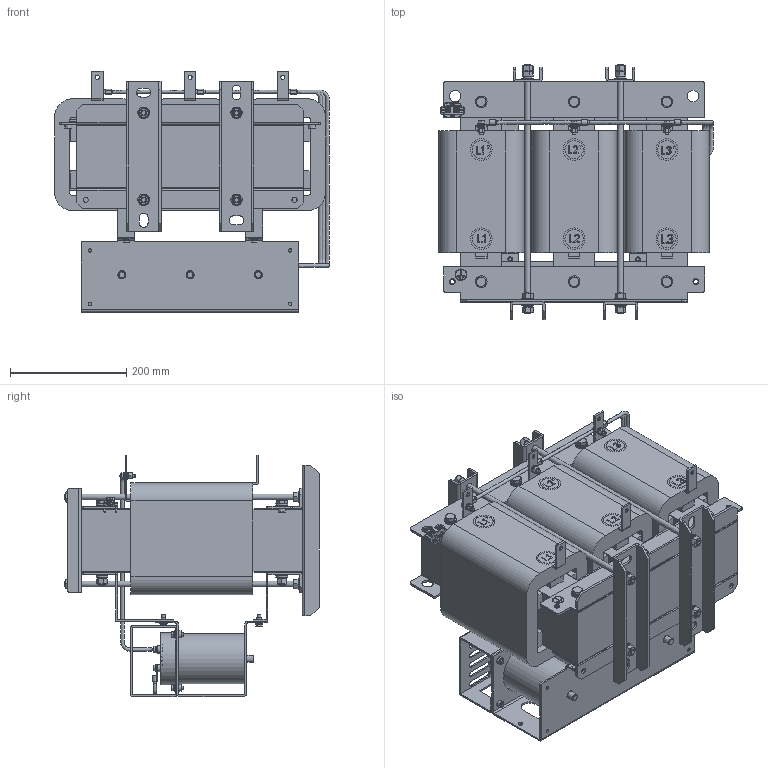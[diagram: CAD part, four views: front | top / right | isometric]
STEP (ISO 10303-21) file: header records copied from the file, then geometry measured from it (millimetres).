
FILE_DESCRIPTION(('STEP AP203'), '1');
FILE_NAME('蔓躅漤铋 耔眢耥 翳朦蝠 _ ISINOF-90_115-6', '', ('UNSPECIFIED'), ('UNSPECIFIED'), 'C3D Converter', 'C3D Toolkit', '');
FILE_SCHEMA(('CONFIG_CONTROL_DESIGN'));
Length unit declared in the file: millimetre
Products named in the file (40): ISINOF-90/115-6; LРНЦ吭X2\04560415\X0\; LРНЦ吭X2\04560415\X0\1; RNB14-6S; 吒X2\0425\X0\86-145; UРН琵X2\042704050415\X0\ 60x30x4; UРНС№Мх 50x25x4; 琵X2\04370418042D0458042C\X0\ ; ёЗЧУ; ї琵X2\041E\X0\做зЧУKV223-2P; А降еМх70-380-1; ДЪДёЕЕ25x3; ЖЅ豹X2\043504560415\X0\豹X2\0435\X0\12x30x210; ИэПаМъРѕ390-380-108; ЙПјРјю450-62-4ЈЁ70-160; НвДёЕЕ25x3; ПЯИ¦115AS; ПВјРјю390-62-4ЈЁ70-160; plain washers--product grade c gb_GB_FASTENER_WASHER_SMWC 10; spring lock washers--normal type gb_GB_FASTENER_WASHER_SW 10; hexagon nuts grade c gb_GB_FASTENER_NUT_SNC1 M10-N; M10X430; БщЅЗВЭЛЁM10; plain washers--product grade c gb_GB_FASTENER_WASHER_SMWC 6; hexagon head bolts-full thread gb_GB_FASTENER_BOLT_STBAB A M6X16-N; spring lock washers--normal type gb_GB_FASTENER_WASHER_SW 6; hexagon nuts grade c gb_GB_FASTENER_NUT_SNC1 M6-N; hexagon head bolts-full thread gb_GB_FASTENER_BOLT_STBAB A M6X20-N; Cable_1-ИэПаХэПТІЁВЛІЁЖч SKS-SF-0155-6AЈЇ05; 琵X2\043704100412\X0\^Cable_1-ИэПаХэПТІЁВЛІЁЖч SKS-SF-0155-6AЈЇ05; Cable_2-ИэПаХэПТІЁВЛІЁЖч SKS-SF-0155-6AЈЇ05; 琵X2\043704100412\X0\^Cable_2-ИэПаХэПТІЁВЛІЁЖч SKS-SF-0155-6AЈЇ05; Cable_3-ИэПаХэПТІЁВЛІЁЖч SKS-SF-0155-6AЈЇ05; 琵X2\043704100412\X0\^Cable_3-ИэПаХэПТІЁВЛІЁЖч SKS-SF-0155-6AЈЇ05; Cable_4-ИэПаХэПТІЁВЛІЁЖч SKS-SF-0155-6AЈЇ05; 琵X2\043704100412\X0\^Cable_4-ИэПаХэПТІЁВЛІЁЖч SKS-SF-0155-6AЈЇ05; L1 L2 L3МщЦЅ; L1ЎЇ L2Ўｮ L3ЎЇМщЦЅ; 琵X2\0428\X0\崤X2\043A\X0\; ПВјРјю 70-160  ЅУ琵X2\042804570427\X0\
Assembly tree (198 placements, depth 3):
  ISINOF-90/115-6
    LРНЦ吭X2\04560415\X0\  x2
    LРНЦ吭X2\04560415\X0\1  x2
    RNB14-6S  x9
    吒X2\0425\X0\86-145  x3
    UРН琵X2\042704050415\X0\ 60x30x4  x2
    UРНС№Мх 50x25x4  x2
    琵X2\04370418042D0458042C\X0\ 
    ёЗЧУ
    ї琵X2\041E\X0\做зЧУKV223-2P
    А降еМх70-380-1  x6
    ДЪДёЕЕ25x3  x3
    ЖЅ豹X2\043504560415\X0\豹X2\0435\X0\12x30x210  x18
    ИэПаМъРѕ390-380-108
    ЙПјРјю450-62-4ЈЁ70-160  x2
    НвДёЕЕ25x3  x3
    ПЯИ¦115AS  x3
    ПВјРјю390-62-4ЈЁ70-160
    plain washers--product grade c gb_GB_FASTENER_WASHER_SMWC 10  x36
    spring lock washers--normal type gb_GB_FASTENER_WASHER_SW 10  x14
    hexagon nuts grade c gb_GB_FASTENER_NUT_SNC1 M10-N  x22
    M10X430  x4
    БщЅЗВЭЛЁM10  x6
    plain washers--product grade c gb_GB_FASTENER_WASHER_SMWC 6  x21
    hexagon head bolts-full thread gb_GB_FASTENER_BOLT_STBAB A M6X16-N  x14
    spring lock washers--normal type gb_GB_FASTENER_WASHER_SW 6  x3
    hexagon nuts grade c gb_GB_FASTENER_NUT_SNC1 M6-N  x3
    hexagon head bolts-full thread gb_GB_FASTENER_BOLT_STBAB A M6X20-N  x3
    Cable_1-ИэПаХэПТІЁВЛІЁЖч SKS-SF-0155-6AЈЇ05
      琵X2\043704100412\X0\^Cable_1-ИэПаХэПТІЁВЛІЁЖч SKS-SF-0155-6AЈЇ05
    Cable_2-ИэПаХэПТІЁВЛІЁЖч SKS-SF-0155-6AЈЇ05
      琵X2\043704100412\X0\^Cable_2-ИэПаХэПТІЁВЛІЁЖч SKS-SF-0155-6AЈЇ05
    Cable_3-ИэПаХэПТІЁВЛІЁЖч SKS-SF-0155-6AЈЇ05
      琵X2\043704100412\X0\^Cable_3-ИэПаХэПТІЁВЛІЁЖч SKS-SF-0155-6AЈЇ05
    Cable_4-ИэПаХэПТІЁВЛІЁЖч SKS-SF-0155-6AЈЇ05
      琵X2\043704100412\X0\^Cable_4-ИэПаХэПТІЁВЛІЁЖч SKS-SF-0155-6AЈЇ05
    L1 L2 L3МщЦЅ
    L1ЎЇ L2Ўｮ L3ЎЇМщЦЅ
    琵X2\0428\X0\崤X2\043A\X0\
    ПВјРјю 70-160  ЅУ琵X2\042804570427\X0\
Bounding box: 473.59 x 439.6 x 415.5 mm (x, y, z)
Volume: 26325723.7 mm3; surface area: 3268418.5 mm2
Topology: 218 solids, 218 shells, 2708 faces, 6238 edges, 4068 vertices
Faces by surface type: plane 1734, cylinder 672, cone 269, bspline 27, torus 6
Full cylindrical faces by diameter (mm): 3 x2, 3.8 x2, 4 x4, 4.917 x3, 6 x47, 6.2 x9, 6.4 x9, 6.6 x21, 6.68 x3, 7 x9, 8 x8, 8.376 x22, 9 x2, 9.88 x3, 10 x10, 10.9 x14, 11 x36, 12 x42, 12.5 x6, 14 x33, 16.1 x14, 18.2 x1, 19 x1, 20 x41, 31.5 x6, 37.5 x6, 86 x6, 90 x6
Entity records: 60463 total; most frequent: CARTESIAN_POINT 17416, DIRECTION 5946, ORIENTED_EDGE 5506, EDGE_CURVE 2753, AXIS2_PLACEMENT_3D 2073, VERTEX_POINT 1918, LINE 1800, VECTOR 1800
